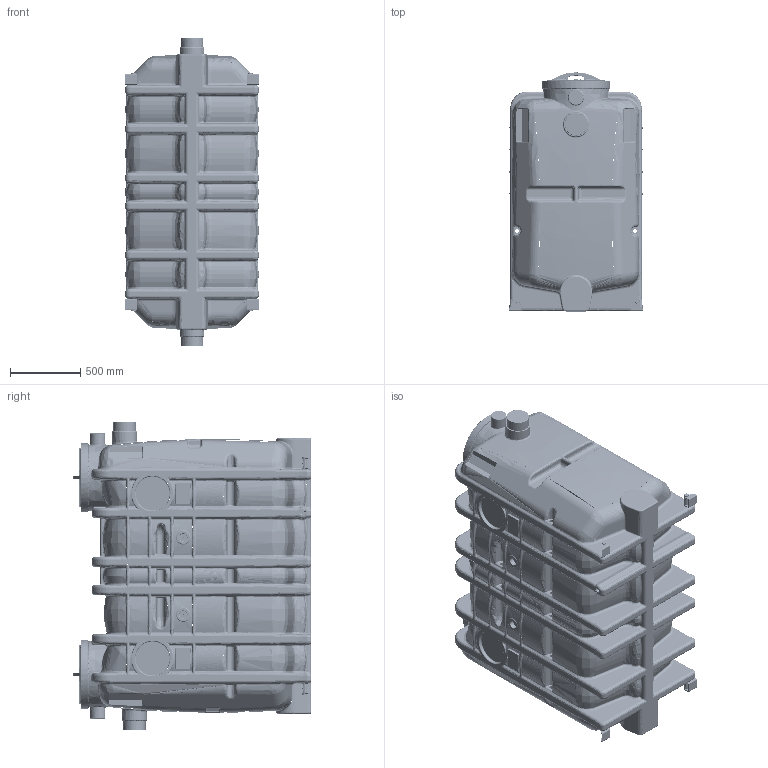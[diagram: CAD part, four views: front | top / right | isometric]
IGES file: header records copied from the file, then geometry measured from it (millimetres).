
Start section: SolidWorks IGES file using analytic representation for surfaces
Global section: file name: C:\Documents and Settings\sparagond\Desktop\35573400 _ O-BASIC.IGS; native system: SolidWorks 2010; preprocessor: SolidWorks 2010; author: sparagond; date: 101123.051139; units: millimetre
Bounding box: 950 x 1699.72 x 2200 mm (x, y, z)
Surface area: 14455254.8 mm2 (no closed solid volume)
Topology: 0 solids, 0 shells, 4549 faces, 52868 edges, 52828 vertices
Faces by surface type: bspline 3148, revolution 1401
